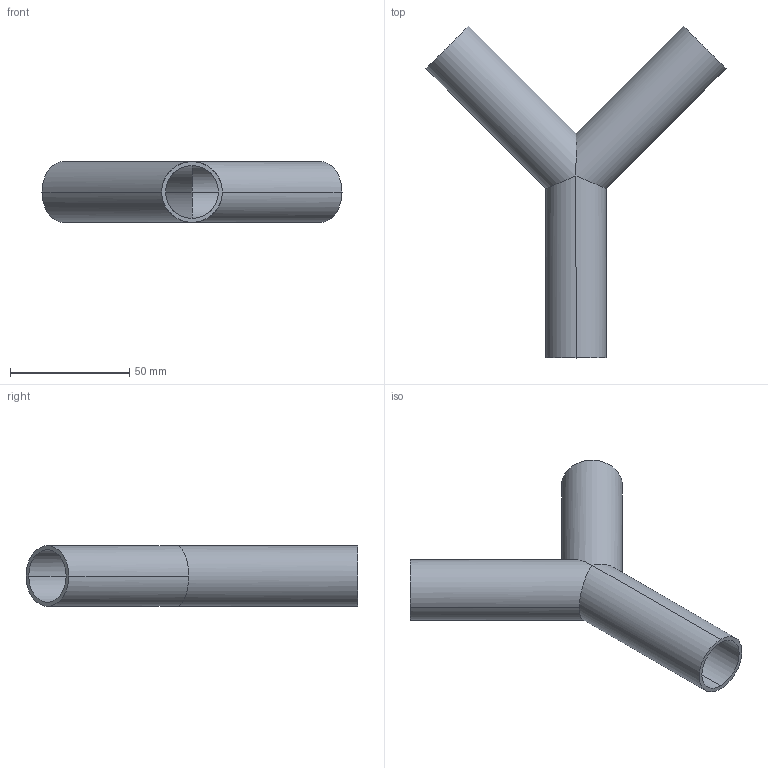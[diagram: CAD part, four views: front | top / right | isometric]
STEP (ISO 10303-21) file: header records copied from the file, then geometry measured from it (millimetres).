
FILE_DESCRIPTION (( 'STEP AP203' ), '1' );
FILE_NAME ('E28WB1.0.STEP', '2018-05-04T12:49:47', ( 'vneprd' ), ( 'Microsoft' ), 'SwSTEP 2.0', 'SolidWorks 2014', '' );
FILE_SCHEMA (( 'CONFIG_CONTROL_DESIGN' ));
Length unit declared in the file: inch
Products named in the file (1): E28WB1.0
Bounding box: 125.72 x 139.06 x 25.4 mm (x, y, z)
Volume: 26453.7 mm3; surface area: 32408.6 mm2
Topology: 1 solids, 1 shells, 15 faces, 36 edges, 22 vertices
Faces by surface type: cylinder 12, plane 3
Entity records: 521 total; most frequent: CARTESIAN_POINT 110, ORIENTED_EDGE 72, DIRECTION 68, EDGE_CURVE 36, AXIS2_PLACEMENT_3D 28, VERTEX_POINT 22, EDGE_LOOP 18, FACE_OUTER_BOUND 15
